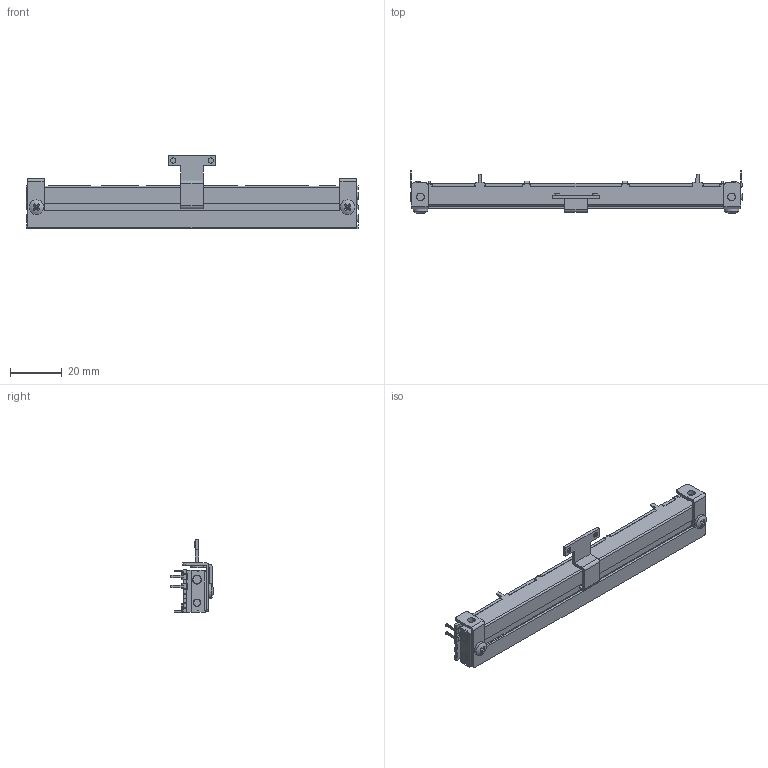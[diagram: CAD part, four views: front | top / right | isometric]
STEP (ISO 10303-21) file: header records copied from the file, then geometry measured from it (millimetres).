
FILE_DESCRIPTION(('FreeCAD Model'),'2;1');
FILE_NAME('Open CASCADE Shape Model','2025-06-30T20:20:40',(''),(''), 'Open CASCADE STEP processor 7.8','FreeCAD','Unknown');
FILE_SCHEMA(('AUTOMOTIVE_DESIGN { 1 0 10303 214 1 1 1 1 }'));
Length unit declared in the file: millimetre
Products named in the file (1): LSVH-110X
Bounding box: 128 x 16.55 x 28.25 mm (x, y, z)
Volume: 19171.2 mm3; surface area: 9200.9 mm2
Topology: 2 solids, 6 shells, 580 faces, 1599 edges, 1046 vertices
Faces by surface type: plane 414, cylinder 149, cone 15, sphere 2
Full cylindrical faces by diameter (mm): 0.5 x3, 1.5 x5, 2 x4, 2.5 x2, 3 x7, 3.2 x2, 3.5 x1, 4 x2, 5 x2, 5.6 x2
Entity records: 20972 total; most frequent: CARTESIAN_POINT 3233, ORIENTED_EDGE 3194, DIRECTION 3180, EDGE_CURVE 1597, LINE 1158, VECTOR 1158, VERTEX_POINT 1046, AXIS2_PLACEMENT_3D 1011
